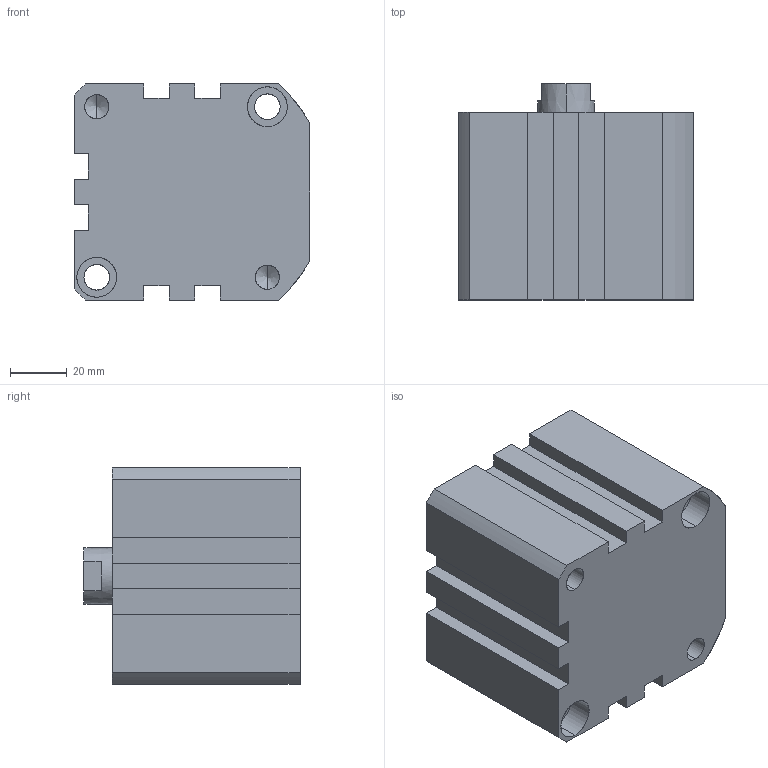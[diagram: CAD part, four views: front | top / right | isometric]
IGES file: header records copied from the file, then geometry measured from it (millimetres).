
Start section: SolidWorks IGES file using analytic representation for surfaces
Global section: file name: C:\Users\Toshiba\Desktop\XG#2-63D-10.IGS; native system: SolidWorks 2014; preprocessor: SolidWorks 2014; author: Toshiba; date: 160524.095332; units: millimetre
Bounding box: 83 x 76 x 76 mm (x, y, z)
Surface area: 45240.2 mm2 (no closed solid volume)
Topology: 0 solids, 0 shells, 112 faces, 1871 edges, 1857 vertices
Faces by surface type: revolution 66, bspline 46
